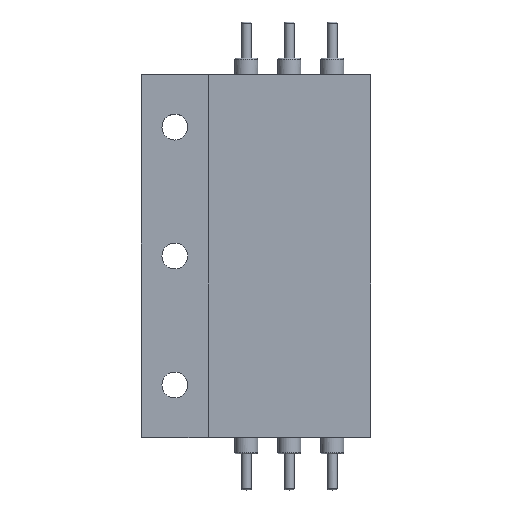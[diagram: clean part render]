
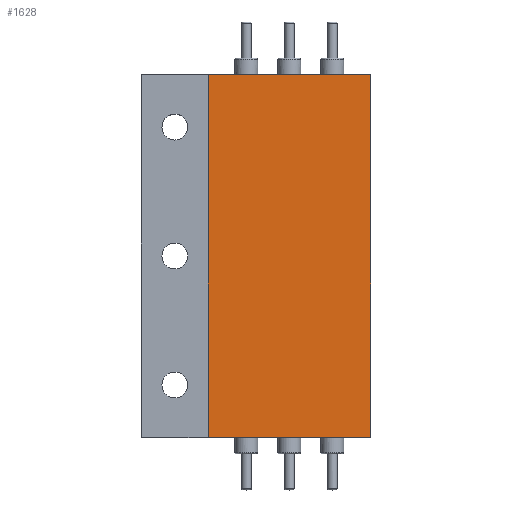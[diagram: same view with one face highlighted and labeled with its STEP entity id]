
A CAD part, top view. The second image highlights one B-rep face of the part: STEP entity #1628.
In plain terms, the highlighted planar face has unit normal (0, 0, 1).
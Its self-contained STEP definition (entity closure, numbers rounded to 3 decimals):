
#341=FACE_OUTER_BOUND('',#526,.T.);
#526=EDGE_LOOP('',(#1283,#1284,#1285,#1286));
#606=LINE('',#2684,#688);
#610=LINE('',#2693,#692);
#611=LINE('',#2694,#693);
#612=LINE('',#2695,#694);
#688=VECTOR('',#2257,10.);
#692=VECTOR('',#2263,10.);
#693=VECTOR('',#2264,10.);
#694=VECTOR('',#2265,10.);
#835=VERTEX_POINT('',#2681);
#836=VERTEX_POINT('',#2683);
#839=VERTEX_POINT('',#2691);
#840=VERTEX_POINT('',#2692);
#992=EDGE_CURVE('',#836,#835,#606,.T.);
#996=EDGE_CURVE('',#839,#840,#610,.T.);
#997=EDGE_CURVE('',#836,#840,#611,.T.);
#998=EDGE_CURVE('',#839,#835,#612,.T.);
#1283=ORIENTED_EDGE('',*,*,#996,.T.);
#1284=ORIENTED_EDGE('',*,*,#997,.F.);
#1285=ORIENTED_EDGE('',*,*,#992,.T.);
#1286=ORIENTED_EDGE('',*,*,#998,.F.);
#1417=PLANE('',#1826);
#1628=ADVANCED_FACE('',(#341),#1417,.T.);
#1826=AXIS2_PLACEMENT_3D('',#2690,#2261,#2262);
#2257=DIRECTION('',(1.,0.,0.));
#2261=DIRECTION('center_axis',(0.,0.,1.));
#2262=DIRECTION('ref_axis',(1.,0.,0.));
#2263=DIRECTION('',(-1.,0.,0.));
#2264=DIRECTION('',(0.,1.,0.));
#2265=DIRECTION('',(0.,-1.,0.));
#2681=CARTESIAN_POINT('',(8.5,-19.,9.));
#2683=CARTESIAN_POINT('',(-8.5,-19.,9.));
#2684=CARTESIAN_POINT('',(-8.5,-19.,9.));
#2690=CARTESIAN_POINT('Origin',(8.5,0.,9.));
#2691=CARTESIAN_POINT('',(8.5,19.,9.));
#2692=CARTESIAN_POINT('',(-8.5,19.,9.));
#2693=CARTESIAN_POINT('',(-8.5,19.,9.));
#2694=CARTESIAN_POINT('',(-8.5,0.,9.));
#2695=CARTESIAN_POINT('',(8.5,0.,9.));
